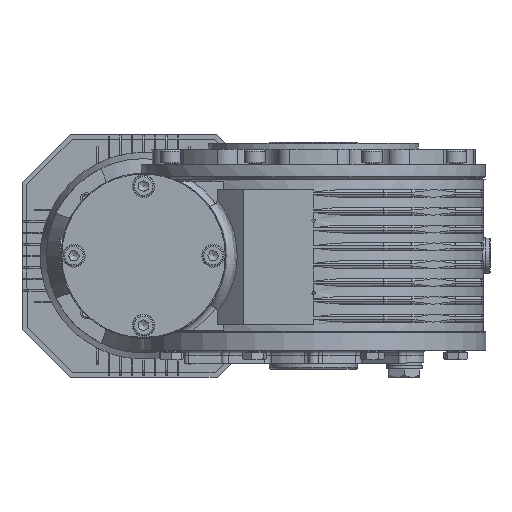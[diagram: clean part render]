
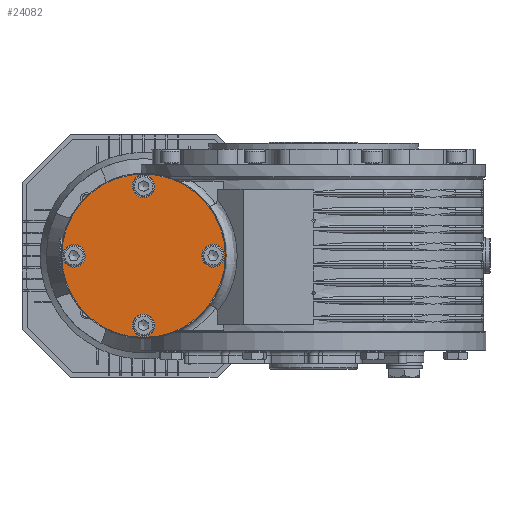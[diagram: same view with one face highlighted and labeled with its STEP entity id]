
A CAD part, left-side view. The second image highlights one B-rep face of the part: STEP entity #24082.
In plain terms, the highlighted planar face has unit normal (-1, 0, 0).
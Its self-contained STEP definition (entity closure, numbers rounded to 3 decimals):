
#23970=CARTESIAN_POINT('',(0.0,4.25,-43.0));
#23971=VERTEX_POINT('',#23970);
#23972=CARTESIAN_POINT('',(0.0,0.,-43.0));
#23973=DIRECTION('',(1.0,0.0,0.0));
#23974=DIRECTION('',(0.0,-1.0,0.0));
#23975=AXIS2_PLACEMENT_3D('',#23972,#23973,#23974);
#23976=CIRCLE('',#23975,4.25);
#23977=EDGE_CURVE('',#23971,#23971,#23976,.T.);
#23990=CARTESIAN_POINT('',(0.0,-43.0,-4.25));
#23991=VERTEX_POINT('',#23990);
#23992=CARTESIAN_POINT('',(0.0,-43.0,0.));
#23993=DIRECTION('',(1.0,0.0,0.0));
#23994=DIRECTION('',(0.0,0.0,1.0));
#23995=AXIS2_PLACEMENT_3D('',#23992,#23993,#23994);
#23996=CIRCLE('',#23995,4.25);
#23997=EDGE_CURVE('',#23991,#23991,#23996,.T.);
#24010=CARTESIAN_POINT('',(0.0,-4.25,43.0));
#24011=VERTEX_POINT('',#24010);
#24012=CARTESIAN_POINT('',(0.0,0.,43.0));
#24013=DIRECTION('',(1.0,0.0,0.0));
#24014=DIRECTION('',(0.0,1.0,0.0));
#24015=AXIS2_PLACEMENT_3D('',#24012,#24013,#24014);
#24016=CIRCLE('',#24015,4.25);
#24017=EDGE_CURVE('',#24011,#24011,#24016,.T.);
#24030=CARTESIAN_POINT('',(0.0,43.0,4.25));
#24031=VERTEX_POINT('',#24030);
#24032=CARTESIAN_POINT('',(0.0,43.0,0.0));
#24033=DIRECTION('',(1.0,0.0,0.0));
#24034=DIRECTION('',(0.0,0.0,-1.0));
#24035=AXIS2_PLACEMENT_3D('',#24032,#24033,#24034);
#24036=CIRCLE('',#24035,4.25);
#24037=EDGE_CURVE('',#24031,#24031,#24036,.T.);
#24050=CARTESIAN_POINT('',(0.0,50.5,0.0));
#24051=VERTEX_POINT('',#24050);
#24052=CARTESIAN_POINT('',(0.0,0.0,0.0));
#24053=DIRECTION('',(1.0,0.0,0.0));
#24054=DIRECTION('',(0.0,1.0,0.0));
#24055=AXIS2_PLACEMENT_3D('',#24052,#24053,#24054);
#24056=CIRCLE('',#24055,50.5);
#24057=EDGE_CURVE('',#24051,#24051,#24056,.T.);
#24062=CARTESIAN_POINT('',(0.0,25.25,0.0));
#24063=DIRECTION('',(-1.0,0.0,0.0));
#24064=DIRECTION('',(0.0,0.0,1.0));
#24065=AXIS2_PLACEMENT_3D('',#24062,#24063,#24064);
#24066=PLANE('',#24065);
#24067=ORIENTED_EDGE('',*,*,#24057,.F.);
#24068=EDGE_LOOP('',(#24067));
#24069=FACE_OUTER_BOUND('',#24068,.T.);
#24070=ORIENTED_EDGE('',*,*,#23977,.T.);
#24071=EDGE_LOOP('',(#24070));
#24072=FACE_BOUND('',#24071,.T.);
#24073=ORIENTED_EDGE('',*,*,#23997,.T.);
#24074=EDGE_LOOP('',(#24073));
#24075=FACE_BOUND('',#24074,.T.);
#24076=ORIENTED_EDGE('',*,*,#24017,.T.);
#24077=EDGE_LOOP('',(#24076));
#24078=FACE_BOUND('',#24077,.T.);
#24079=ORIENTED_EDGE('',*,*,#24037,.T.);
#24080=EDGE_LOOP('',(#24079));
#24081=FACE_BOUND('',#24080,.T.);
#24082=ADVANCED_FACE('',(#24069,#24072,#24075,#24078,#24081),#24066,.T.);
